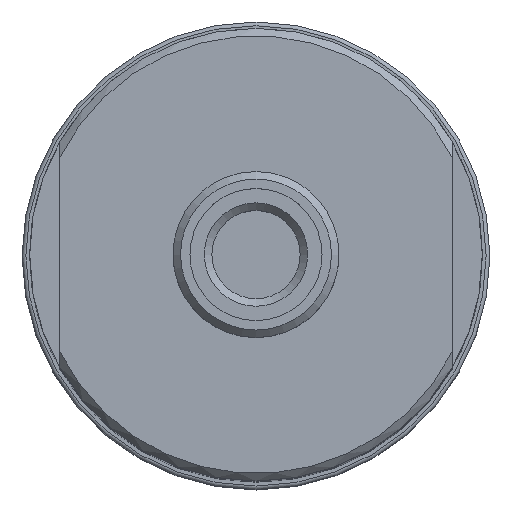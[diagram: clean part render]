
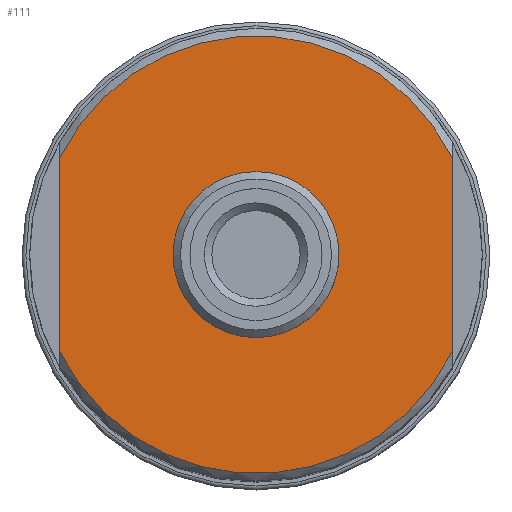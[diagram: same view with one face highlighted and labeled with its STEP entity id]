
A CAD part, top view. The second image highlights one B-rep face of the part: STEP entity #111.
In plain terms, the highlighted planar face has unit normal (0, 0, 1).
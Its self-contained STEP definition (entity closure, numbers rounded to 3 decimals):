
#111=ADVANCED_FACE('',(#221,#222),#223,.F.);
#221=FACE_OUTER_BOUND('',#366,.T.);
#222=FACE_BOUND('',#367,.T.);
#223=PLANE('',#368);
#366=EDGE_LOOP('',(#655,#656,#657,#658));
#367=EDGE_LOOP('',(#659));
#368=AXIS2_PLACEMENT_3D('',#660,#661,#662);
#655=ORIENTED_EDGE('',*,*,#802,.F.);
#656=ORIENTED_EDGE('',*,*,#808,.T.);
#657=ORIENTED_EDGE('',*,*,#806,.F.);
#658=ORIENTED_EDGE('',*,*,#810,.T.);
#659=ORIENTED_EDGE('',*,*,#834,.T.);
#660=CARTESIAN_POINT('',(11.0,0.,108.7));
#661=DIRECTION('',(0.0,0.,-1.0));
#662=DIRECTION('',(0.0,-1.0,0.));
#802=EDGE_CURVE('',#924,#926,#927,.T.);
#806=EDGE_CURVE('',#931,#929,#933,.T.);
#808=EDGE_CURVE('',#924,#929,#935,.T.);
#810=EDGE_CURVE('',#931,#926,#937,.T.);
#834=EDGE_CURVE('',#976,#976,#977,.T.);
#924=VERTEX_POINT('',#1118);
#926=VERTEX_POINT('',#1123);
#927=CIRCLE('',#1124,29.0);
#929=VERTEX_POINT('',#1129);
#931=VERTEX_POINT('',#1134);
#933=CIRCLE('',#1139,29.0);
#935=LINE('',#1142,#1143);
#937=LINE('',#1146,#1147);
#976=VERTEX_POINT('',#1226);
#977=CIRCLE('',#1227,11.0);
#1118=CARTESIAN_POINT('',(26.,-12.845,108.7));
#1123=CARTESIAN_POINT('',(-26.,-12.845,108.7));
#1124=AXIS2_PLACEMENT_3D('',#1333,#1334,#1335);
#1129=CARTESIAN_POINT('',(26.,12.845,108.7));
#1134=CARTESIAN_POINT('',(-26.,12.845,108.7));
#1139=AXIS2_PLACEMENT_3D('',#1336,#1337,#1338);
#1142=CARTESIAN_POINT('',(26.,-18.655,108.7));
#1143=VECTOR('',#1340,1.0);
#1146=CARTESIAN_POINT('',(-26.,18.655,108.7));
#1147=VECTOR('',#1342,1.0);
#1226=CARTESIAN_POINT('',(0.0,-11.0,108.7));
#1227=AXIS2_PLACEMENT_3D('',#1392,#1393,#1394);
#1333=CARTESIAN_POINT('',(0.0,0.,108.7));
#1334=DIRECTION('',(0.0,0.,-1.0));
#1335=DIRECTION('',(0.0,-1.0,0.));
#1336=CARTESIAN_POINT('',(0.0,0.,108.7));
#1337=DIRECTION('',(0.0,0.,-1.0));
#1338=DIRECTION('',(0.0,-1.0,0.));
#1340=DIRECTION('',(0.0,1.0,0.0));
#1342=DIRECTION('',(0.0,-1.0,0.0));
#1392=CARTESIAN_POINT('',(0.0,0.,108.7));
#1393=DIRECTION('',(0.0,0.,-1.0));
#1394=DIRECTION('',(0.0,-1.0,0.));
